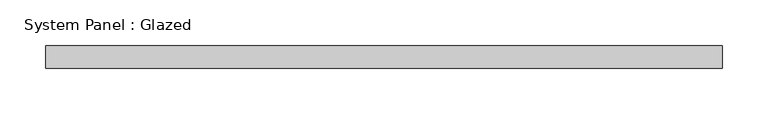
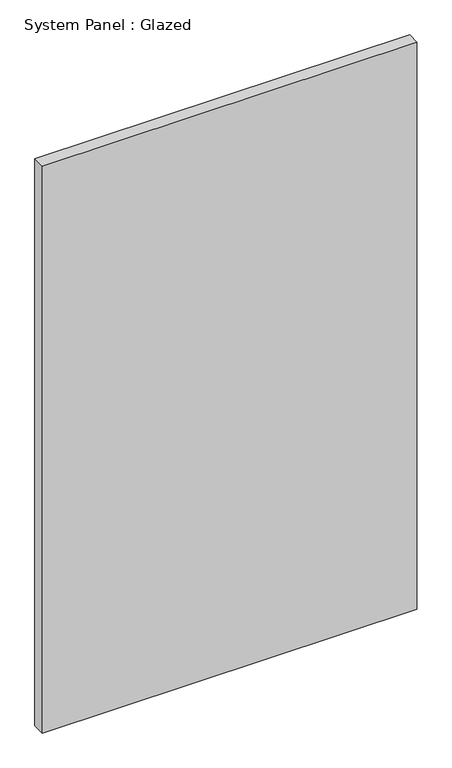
"""IFC4 building model written with IfcOpenShell, lengths in millimetres: plate geometry, System Panel : Glazed."""

import ifcopenshell
import ifcopenshell.guid

model = None  # the IFC model being written
_history = None  # IfcOwnerHistory: only IFC2X3 demands one
_inside = {}  # id of a spatial element -> (the spatial element, [elements in it])
_under = {}  # id of a project, library or spatial element -> (it, [spatial elements below it])
_declared = {}  # id of a project -> (the project, [libraries it declares])
_typed = {}  # id of a type object -> (the type object, [elements of that type])
_made_of = {}  # id of a material, layer set ... -> (it, [elements and type objects made of it])


def new_model(schema):
    """Start an empty IFC model of exactly this schema.

    Asked for "IFC4X3", IfcOpenShell would pick the latest addendum, in which some entities
    have other attributes; the version numbers below select the first issue.
    IFC2X3 requires an IfcOwnerHistory on every rooted entity: one is made here for all.
    """
    global model, _history
    if schema == "IFC4X3":
        model = ifcopenshell.file(schema_version=(4, 3, 0, 0))
    else:
        model = ifcopenshell.file(schema=schema)
    _inside.clear()
    _under.clear()
    _declared.clear()
    _typed.clear()
    _made_of.clear()
    _history = None
    if model.schema == "IFC2X3":
        org = make("IfcOrganization", Name="unknown")
        user = make(
            "IfcPersonAndOrganization",
            ThePerson=make("IfcPerson", FamilyName="unknown"),
            TheOrganization=org,
        )
        app = make(
            "IfcApplication",
            ApplicationDeveloper=org,
            Version="unknown",
            ApplicationFullName="unknown",
            ApplicationIdentifier="unknown",
        )
        _history = make(
            "IfcOwnerHistory",
            OwningUser=user,
            OwningApplication=app,
            ChangeAction="ADDED",
            CreationDate=0,
        )
    return model


def make(cls, **values):
    """One entity of the class cls with the attributes given. An attribute that is None is left unset."""
    return model.create_entity(
        cls, **{name: value for name, value in values.items() if value is not None}
    )


def rooted(cls, **values):
    """An entity with a GlobalId (a new one), such as an element, a storey or a relation."""
    return make(cls, GlobalId=ifcopenshell.guid.new(), OwnerHistory=_history, **values)


def si_unit(unit_type, name, prefix=None):
    """IfcSIUnit, for example si_unit("LENGTHUNIT", "METRE", prefix="MILLI")."""
    return make("IfcSIUnit", UnitType=unit_type, Prefix=prefix, Name=name)


def assignment(units):
    """IfcUnitAssignment: the units of a project."""
    return None if units is None else make("IfcUnitAssignment", Units=units)


def point(xyz):
    """IfcCartesianPoint."""
    return None if xyz is None else make("IfcCartesianPoint", Coordinates=xyz)


def direction(xyz):
    """IfcDirection."""
    return None if xyz is None else make("IfcDirection", DirectionRatios=xyz)


def frame(location, z_axis=None, x_axis=None):
    """IfcAxis2Placement3D, a coordinate frame: its origin and axes. An axis left out is left unset."""
    return make(
        "IfcAxis2Placement3D",
        Location=point(location),
        Axis=direction(z_axis),
        RefDirection=direction(x_axis),
    )


def origin():
    """The frame at (0, 0, 0) with its axes left unset."""
    return frame((0.0, 0.0, 0.0))


def origin_with_axes():
    """The frame at (0, 0, 0) with the z axis (0, 0, 1) and the x axis (1, 0, 0) written out."""
    return frame((0.0, 0.0, 0.0), z_axis=(0.0, 0.0, 1.0), x_axis=(1.0, 0.0, 0.0))


def place(relative_to, where):
    """IfcLocalPlacement: puts the frame where relative to a parent placement (None: the world)."""
    return make(
        "IfcLocalPlacement", PlacementRelTo=relative_to, RelativePlacement=where
    )


def context(
    kind, dimensions, precision=None, world=None, true_north=None, identifier=None
):
    """IfcGeometricRepresentationContext, for example the 3D "Model" context."""
    return make(
        "IfcGeometricRepresentationContext",
        ContextIdentifier=identifier,
        ContextType=kind,
        CoordinateSpaceDimension=dimensions,
        Precision=precision,
        WorldCoordinateSystem=world,
        TrueNorth=true_north,
    )


def project(units=None, contexts=None):
    """IfcProject with its units and contexts."""
    return rooted(
        "IfcProject",
        Name="project",
        RepresentationContexts=contexts,
        UnitsInContext=assignment(units),
    )


def spatial(cls, under=None, at=None, **own):
    """A site, building, storey or space (cls), placed at a placement, below another one or the project."""
    s = rooted(cls, ObjectPlacement=at, **own)
    if under is not None:
        _under.setdefault(under.id(), (under, []))[1].append(s)
    return s


def polyline(points):
    """IfcPolyline through the points."""
    return make("IfcPolyline", Points=[point(p) for p in points])


def outline(outer, holes=None, kind="AREA"):
    """IfcArbitraryClosedProfileDef: a profile drawn as a closed curve; with holes, ...WithVoids."""
    if holes is None:
        return make("IfcArbitraryClosedProfileDef", ProfileType=kind, OuterCurve=outer)
    return make(
        "IfcArbitraryProfileDefWithVoids",
        ProfileType=kind,
        OuterCurve=outer,
        InnerCurves=holes,
    )


def extrude(swept, where, along, depth):
    """IfcExtrudedAreaSolid: the profile swept, set in the frame where, extruded along a direction by depth."""
    return make(
        "IfcExtrudedAreaSolid",
        SweptArea=swept,
        Position=where,
        ExtrudedDirection=direction(along),
        Depth=depth,
    )


def shape(context_of_items, identifier, shape_type, items):
    """IfcShapeRepresentation: the items that make up one representation, for example the "Body"."""
    return make(
        "IfcShapeRepresentation",
        ContextOfItems=context_of_items,
        RepresentationIdentifier=identifier,
        RepresentationType=shape_type,
        Items=items,
    )


def source(mapping_origin, context_of_items, identifier, shape_type, items):
    """IfcRepresentationMap: a shape defined once, which mapped items show again and again."""
    return make(
        "IfcRepresentationMap",
        MappingOrigin=mapping_origin,
        MappedRepresentation=shape(context_of_items, identifier, shape_type, items),
    )


def transform(
    local_origin,
    x_axis=None,
    y_axis=None,
    z_axis=None,
    scale=None,
    scale2=None,
    scale3=None,
    uniform=True,
):
    """IfcCartesianTransformationOperator3D, or its non-uniform kind. x_axis, y_axis, z_axis: its Axis1, 2, 3."""
    if uniform:
        return make(
            "IfcCartesianTransformationOperator3D",
            Axis1=direction(x_axis),
            Axis2=direction(y_axis),
            LocalOrigin=point(local_origin),
            Scale=scale,
            Axis3=direction(z_axis),
        )
    return make(
        "IfcCartesianTransformationOperator3DnonUniform",
        Axis1=direction(x_axis),
        Axis2=direction(y_axis),
        LocalOrigin=point(local_origin),
        Scale=scale,
        Axis3=direction(z_axis),
        Scale2=scale2,
        Scale3=scale3,
    )


def mapped(mapping_source, mapping_target):
    """IfcMappedItem: shows the shape of a source again, moved by a transform."""
    return make(
        "IfcMappedItem", MappingSource=mapping_source, MappingTarget=mapping_target
    )


def made_of(thing, what):
    """Note that an element or type object is made of a material, layer set ...; save() writes the relation."""
    if what is not None:
        _made_of.setdefault(what.id(), (what, []))[1].append(thing)
    return thing


def element(
    cls,
    number,
    at=None,
    inside=None,
    cuts=None,
    type_object=None,
    material=None,
    context=None,
    identifier="Body",
    shape_type=None,
    held_by="IfcProductDefinitionShape",
    body=None,
    shapes=None,
    **own,
):
    """One element of the class cls, such as IfcWall. Its Tag is "e" and its number.

    at: its placement. inside: the storey or other place that contains it. cuts: it is an
    opening in that element (IfcRelVoidsElement). A single representation is given by context,
    identifier, shape_type and body (its items); several are given by shapes. held_by: the class
    of the entity that holds the representations. save() writes the other relations.
    """
    e = rooted(cls, Tag="e%d" % number, ObjectPlacement=at, **own)
    if body is not None:
        shapes = [shape(context, identifier, shape_type, body)]
    if shapes is not None:
        e.Representation = make(held_by, Representations=shapes)
    if inside is not None:
        _inside.setdefault(inside.id(), (inside, []))[1].append(e)
    if cuts is not None:
        rooted(
            "IfcRelVoidsElement", RelatingBuildingElement=cuts, RelatedOpeningElement=e
        )
    if type_object is not None:
        _typed.setdefault(type_object.id(), (type_object, []))[1].append(e)
    return made_of(e, material)


def aggregate(whole, parts):
    """IfcRelAggregates: a whole, such as a stair, and the parts it consists of."""
    return rooted("IfcRelAggregates", RelatingObject=whole, RelatedObjects=parts)


def save(model, path):
    """Write the relations noted so far, then the file.

    IfcRelAggregates (storeys below a building ...), IfcRelContainedInSpatialStructure (elements
    in a storey), IfcRelDefinesByType, IfcRelAssociatesMaterial and IfcRelDeclares: one each for
    every whole, place, type object, material and project.
    """
    for whole, parts in _under.values():
        aggregate(whole, parts)
    for where, things in _inside.values():
        rooted(
            "IfcRelContainedInSpatialStructure",
            RelatedElements=things,
            RelatingStructure=where,
        )
    for kind, things in _typed.values():
        rooted("IfcRelDefinesByType", RelatedObjects=things, RelatingType=kind)
    for what, things in _made_of.values():
        rooted("IfcRelAssociatesMaterial", RelatedObjects=things, RelatingMaterial=what)
    for by, libraries in _declared.values():
        rooted("IfcRelDeclares", RelatingContext=by, RelatedDefinitions=libraries)
    model.write(path)


def system_panel_glazed_19cdf183(model_context):
    return source(origin(), model_context, "Body", "SweptSolid", [
        extrude(outline(polyline([(371.9365081, -12.5), (-371.9365081, -12.5), (-371.9365081, 12.5), (371.9365081, 12.5), (371.9365081, -12.5)])), origin_with_axes(), (0.0, 0.0, 1.0), 1190.0),
    ])


if __name__ == "__main__":
    model = new_model("IFC4")
    model_context = context("Model", 3, world=origin())
    ifc_project = project(units=[si_unit("LENGTHUNIT", "METRE", prefix="MILLI")], contexts=[model_context])
    site = spatial("IfcSite", under=ifc_project)
    building = spatial("IfcBuilding", under=site)
    placement = place(None, origin())
    system_panel_glazed_shape = system_panel_glazed_19cdf183(model_context)
    element("IfcPlate", 1, ObjectType="System Panel : Glazed", at=placement, inside=building, context=model_context, shape_type="MappedRepresentation", body=[
        mapped(system_panel_glazed_shape, transform((0.0, 0.0, 0.0), x_axis=(1.0, 0.0, 0.0), y_axis=(0.0, 1.0, 0.0), z_axis=(0.0, 0.0, 1.0))),
    ])
    save(model, "model.ifc")
